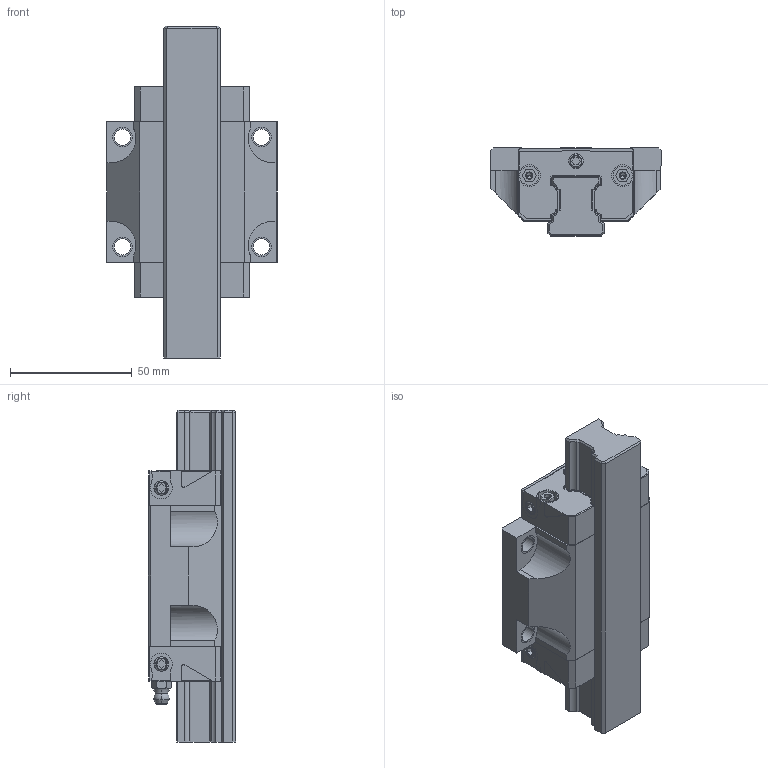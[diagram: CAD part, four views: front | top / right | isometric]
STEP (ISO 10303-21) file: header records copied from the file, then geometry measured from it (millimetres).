
FILE_DESCRIPTION((''),'2;1');
FILE_NAME('KWD_025_FNS_AL__ASM','2021-10-14T08:25:30',('ac91sw'),(''),'CREO PARAMETRIC BY PTC INC, 2020044','CREO PARAMETRIC BY PTC INC, 2020044','');
FILE_SCHEMA(('AUTOMOTIVE_DESIGN { 1 0 10303 214 1 1 1 1 }'));
Length unit declared in the file: millimetre
Products named in the file (7): KWD_025_FNS_AL__SKEL; R200120131; R200120102_Z; R343706101_Z; KWD_025_FNS_AL__PSF; R341700802_Z; KWD_025_FNS_AL__ASM
Assembly tree (11 placements, depth 2):
  KWD_025_FNS_AL__ASM
    KWD_025_FNS_AL__SKEL
    R200120131
    R200120102_Z  x2
    R343706101_Z  x5
    KWD_025_FNS_AL__PSF
    R341700802_Z
Bounding box: 70 x 36 x 136.2 mm (x, y, z)
Volume: 154839.2 mm3; surface area: 50117 mm2
Topology: 10 solids, 28 shells, 554 faces, 1430 edges, 918 vertices
Faces by surface type: plane 318, cylinder 162, cone 68, torus 4, sphere 2
Entity records: 17966 total; most frequent: CARTESIAN_POINT 2275, DIRECTION 1904, ORIENTED_EDGE 1780, EDGE_CURVE 914, PROPERTY_DEFINITION 823, REPRESENTATION 814, PROPERTY_DEFINITION_REPRESENTATION 814, DESCRIPTIVE_REPRESENTATION_ITEM 757
